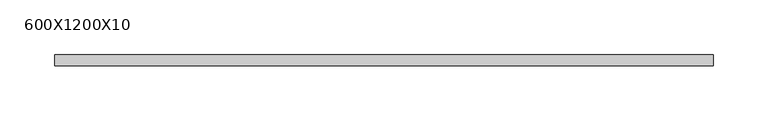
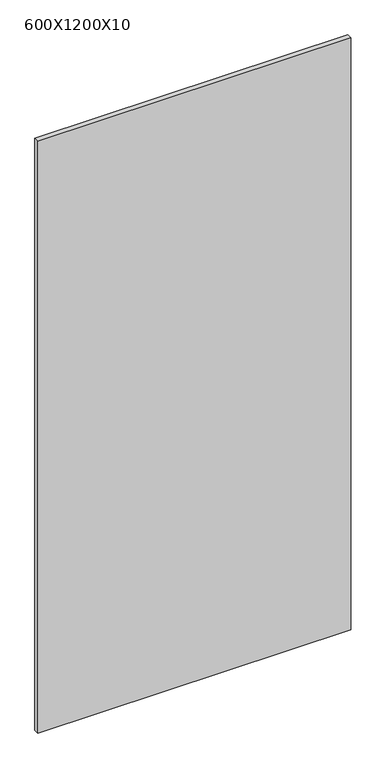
"""IFC4 building model written with IfcOpenShell, lengths in millimetres: furniture geometry, ARQ_MOB_ESPEJO_SOBREPUESTO : 600X1200X10."""

import ifcopenshell
import ifcopenshell.guid

model = None  # the IFC model being written
_history = None  # IfcOwnerHistory: only IFC2X3 demands one
_inside = {}  # id of a spatial element -> (the spatial element, [elements in it])
_under = {}  # id of a project, library or spatial element -> (it, [spatial elements below it])
_declared = {}  # id of a project -> (the project, [libraries it declares])
_typed = {}  # id of a type object -> (the type object, [elements of that type])
_made_of = {}  # id of a material, layer set ... -> (it, [elements and type objects made of it])


def new_model(schema):
    """Start an empty IFC model of exactly this schema.

    Asked for "IFC4X3", IfcOpenShell would pick the latest addendum, in which some entities
    have other attributes; the version numbers below select the first issue.
    IFC2X3 requires an IfcOwnerHistory on every rooted entity: one is made here for all.
    """
    global model, _history
    if schema == "IFC4X3":
        model = ifcopenshell.file(schema_version=(4, 3, 0, 0))
    else:
        model = ifcopenshell.file(schema=schema)
    _inside.clear()
    _under.clear()
    _declared.clear()
    _typed.clear()
    _made_of.clear()
    _history = None
    if model.schema == "IFC2X3":
        org = make("IfcOrganization", Name="unknown")
        user = make(
            "IfcPersonAndOrganization",
            ThePerson=make("IfcPerson", FamilyName="unknown"),
            TheOrganization=org,
        )
        app = make(
            "IfcApplication",
            ApplicationDeveloper=org,
            Version="unknown",
            ApplicationFullName="unknown",
            ApplicationIdentifier="unknown",
        )
        _history = make(
            "IfcOwnerHistory",
            OwningUser=user,
            OwningApplication=app,
            ChangeAction="ADDED",
            CreationDate=0,
        )
    return model


def make(cls, **values):
    """One entity of the class cls with the attributes given. An attribute that is None is left unset."""
    return model.create_entity(
        cls, **{name: value for name, value in values.items() if value is not None}
    )


def rooted(cls, **values):
    """An entity with a GlobalId (a new one), such as an element, a storey or a relation."""
    return make(cls, GlobalId=ifcopenshell.guid.new(), OwnerHistory=_history, **values)


def si_unit(unit_type, name, prefix=None):
    """IfcSIUnit, for example si_unit("LENGTHUNIT", "METRE", prefix="MILLI")."""
    return make("IfcSIUnit", UnitType=unit_type, Prefix=prefix, Name=name)


def assignment(units):
    """IfcUnitAssignment: the units of a project."""
    return None if units is None else make("IfcUnitAssignment", Units=units)


def point(xyz):
    """IfcCartesianPoint."""
    return None if xyz is None else make("IfcCartesianPoint", Coordinates=xyz)


def direction(xyz):
    """IfcDirection."""
    return None if xyz is None else make("IfcDirection", DirectionRatios=xyz)


def frame(location, z_axis=None, x_axis=None):
    """IfcAxis2Placement3D, a coordinate frame: its origin and axes. An axis left out is left unset."""
    return make(
        "IfcAxis2Placement3D",
        Location=point(location),
        Axis=direction(z_axis),
        RefDirection=direction(x_axis),
    )


def origin():
    """The frame at (0, 0, 0) with its axes left unset."""
    return frame((0.0, 0.0, 0.0))


def origin_with_axes():
    """The frame at (0, 0, 0) with the z axis (0, 0, 1) and the x axis (1, 0, 0) written out."""
    return frame((0.0, 0.0, 0.0), z_axis=(0.0, 0.0, 1.0), x_axis=(1.0, 0.0, 0.0))


def place(relative_to, where):
    """IfcLocalPlacement: puts the frame where relative to a parent placement (None: the world)."""
    return make(
        "IfcLocalPlacement", PlacementRelTo=relative_to, RelativePlacement=where
    )


def context(
    kind, dimensions, precision=None, world=None, true_north=None, identifier=None
):
    """IfcGeometricRepresentationContext, for example the 3D "Model" context."""
    return make(
        "IfcGeometricRepresentationContext",
        ContextIdentifier=identifier,
        ContextType=kind,
        CoordinateSpaceDimension=dimensions,
        Precision=precision,
        WorldCoordinateSystem=world,
        TrueNorth=true_north,
    )


def project(units=None, contexts=None):
    """IfcProject with its units and contexts."""
    return rooted(
        "IfcProject",
        Name="project",
        RepresentationContexts=contexts,
        UnitsInContext=assignment(units),
    )


def spatial(cls, under=None, at=None, **own):
    """A site, building, storey or space (cls), placed at a placement, below another one or the project."""
    s = rooted(cls, ObjectPlacement=at, **own)
    if under is not None:
        _under.setdefault(under.id(), (under, []))[1].append(s)
    return s


def polyline(points):
    """IfcPolyline through the points."""
    return make("IfcPolyline", Points=[point(p) for p in points])


def outline(outer, holes=None, kind="AREA"):
    """IfcArbitraryClosedProfileDef: a profile drawn as a closed curve; with holes, ...WithVoids."""
    if holes is None:
        return make("IfcArbitraryClosedProfileDef", ProfileType=kind, OuterCurve=outer)
    return make(
        "IfcArbitraryProfileDefWithVoids",
        ProfileType=kind,
        OuterCurve=outer,
        InnerCurves=holes,
    )


def extrude(swept, where, along, depth):
    """IfcExtrudedAreaSolid: the profile swept, set in the frame where, extruded along a direction by depth."""
    return make(
        "IfcExtrudedAreaSolid",
        SweptArea=swept,
        Position=where,
        ExtrudedDirection=direction(along),
        Depth=depth,
    )


def shape(context_of_items, identifier, shape_type, items):
    """IfcShapeRepresentation: the items that make up one representation, for example the "Body"."""
    return make(
        "IfcShapeRepresentation",
        ContextOfItems=context_of_items,
        RepresentationIdentifier=identifier,
        RepresentationType=shape_type,
        Items=items,
    )


def source(mapping_origin, context_of_items, identifier, shape_type, items):
    """IfcRepresentationMap: a shape defined once, which mapped items show again and again."""
    return make(
        "IfcRepresentationMap",
        MappingOrigin=mapping_origin,
        MappedRepresentation=shape(context_of_items, identifier, shape_type, items),
    )


def transform(
    local_origin,
    x_axis=None,
    y_axis=None,
    z_axis=None,
    scale=None,
    scale2=None,
    scale3=None,
    uniform=True,
):
    """IfcCartesianTransformationOperator3D, or its non-uniform kind. x_axis, y_axis, z_axis: its Axis1, 2, 3."""
    if uniform:
        return make(
            "IfcCartesianTransformationOperator3D",
            Axis1=direction(x_axis),
            Axis2=direction(y_axis),
            LocalOrigin=point(local_origin),
            Scale=scale,
            Axis3=direction(z_axis),
        )
    return make(
        "IfcCartesianTransformationOperator3DnonUniform",
        Axis1=direction(x_axis),
        Axis2=direction(y_axis),
        LocalOrigin=point(local_origin),
        Scale=scale,
        Axis3=direction(z_axis),
        Scale2=scale2,
        Scale3=scale3,
    )


def mapped(mapping_source, mapping_target):
    """IfcMappedItem: shows the shape of a source again, moved by a transform."""
    return make(
        "IfcMappedItem", MappingSource=mapping_source, MappingTarget=mapping_target
    )


def made_of(thing, what):
    """Note that an element or type object is made of a material, layer set ...; save() writes the relation."""
    if what is not None:
        _made_of.setdefault(what.id(), (what, []))[1].append(thing)
    return thing


def element(
    cls,
    number,
    at=None,
    inside=None,
    cuts=None,
    type_object=None,
    material=None,
    context=None,
    identifier="Body",
    shape_type=None,
    held_by="IfcProductDefinitionShape",
    body=None,
    shapes=None,
    **own,
):
    """One element of the class cls, such as IfcWall. Its Tag is "e" and its number.

    at: its placement. inside: the storey or other place that contains it. cuts: it is an
    opening in that element (IfcRelVoidsElement). A single representation is given by context,
    identifier, shape_type and body (its items); several are given by shapes. held_by: the class
    of the entity that holds the representations. save() writes the other relations.
    """
    e = rooted(cls, Tag="e%d" % number, ObjectPlacement=at, **own)
    if body is not None:
        shapes = [shape(context, identifier, shape_type, body)]
    if shapes is not None:
        e.Representation = make(held_by, Representations=shapes)
    if inside is not None:
        _inside.setdefault(inside.id(), (inside, []))[1].append(e)
    if cuts is not None:
        rooted(
            "IfcRelVoidsElement", RelatingBuildingElement=cuts, RelatedOpeningElement=e
        )
    if type_object is not None:
        _typed.setdefault(type_object.id(), (type_object, []))[1].append(e)
    return made_of(e, material)


def aggregate(whole, parts):
    """IfcRelAggregates: a whole, such as a stair, and the parts it consists of."""
    return rooted("IfcRelAggregates", RelatingObject=whole, RelatedObjects=parts)


def save(model, path):
    """Write the relations noted so far, then the file.

    IfcRelAggregates (storeys below a building ...), IfcRelContainedInSpatialStructure (elements
    in a storey), IfcRelDefinesByType, IfcRelAssociatesMaterial and IfcRelDeclares: one each for
    every whole, place, type object, material and project.
    """
    for whole, parts in _under.values():
        aggregate(whole, parts)
    for where, things in _inside.values():
        rooted(
            "IfcRelContainedInSpatialStructure",
            RelatedElements=things,
            RelatingStructure=where,
        )
    for kind, things in _typed.values():
        rooted("IfcRelDefinesByType", RelatedObjects=things, RelatingType=kind)
    for what, things in _made_of.values():
        rooted("IfcRelAssociatesMaterial", RelatedObjects=things, RelatingMaterial=what)
    for by, libraries in _declared.values():
        rooted("IfcRelDeclares", RelatingContext=by, RelatedDefinitions=libraries)
    model.write(path)


def furniture_600x1200x10_10085fb0(model_context):
    return source(origin(), model_context, "Body", "SweptSolid", [
        extrude(outline(polyline([(344.7003264, -10.0), (-255.2996736, -10.0), (-255.2996736, 0.0), (344.7003264, 0.0), (344.7003264, -10.0)])), origin_with_axes(), (0.0, 0.0, 1.0), 1200.0),
    ])


if __name__ == "__main__":
    model = new_model("IFC4")
    model_context = context("Model", 3, world=origin())
    ifc_project = project(units=[si_unit("LENGTHUNIT", "METRE", prefix="MILLI")], contexts=[model_context])
    site = spatial("IfcSite", under=ifc_project)
    building = spatial("IfcBuilding", under=site)
    placement = place(None, origin())
    furniture_600x1200x10_shape = furniture_600x1200x10_10085fb0(model_context)
    element("IfcFurniture", 1, ObjectType="ARQ_MOB_ESPEJO_SOBREPUESTO : 600X1200X10", at=placement, inside=building, context=model_context, shape_type="MappedRepresentation", body=[
        mapped(furniture_600x1200x10_shape, transform((0.0, 0.0, 0.0), x_axis=(1.0, 0.0, 0.0), y_axis=(0.0, 1.0, 0.0), z_axis=(0.0, 0.0, 1.0))),
    ])
    save(model, "model.ifc")
